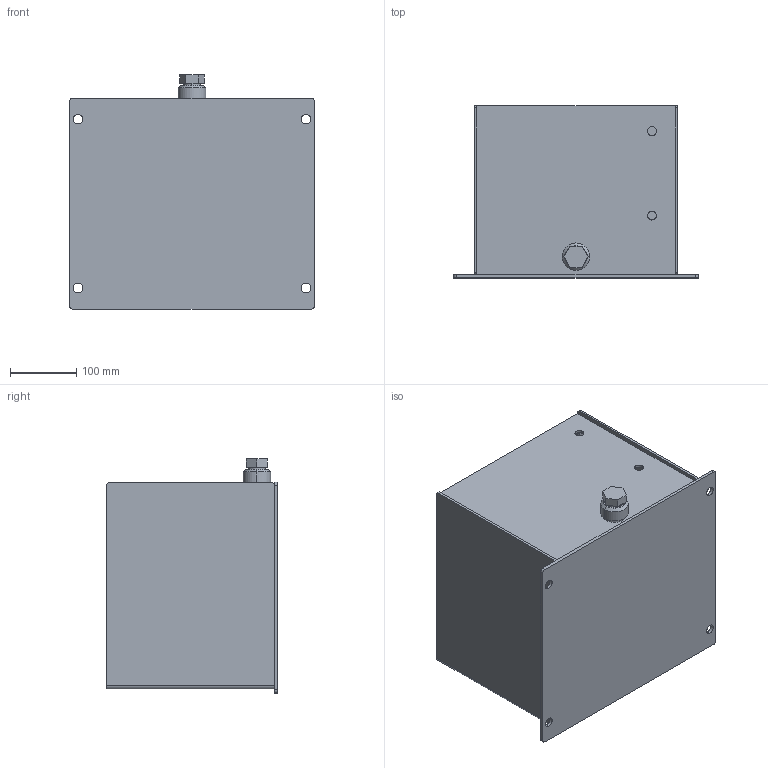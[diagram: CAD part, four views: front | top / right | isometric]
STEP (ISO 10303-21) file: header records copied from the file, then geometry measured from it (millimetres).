
FILE_DESCRIPTION (( 'STEP AP214' ), '1' );
FILE_NAME ('TV-145.STEP', '2020-02-04T12:33:37', ( '' ), ( '' ), 'SwSTEP 2.0', 'SolidWorks 2013', '' );
FILE_SCHEMA (( 'AUTOMOTIVE_DESIGN' ));
Length unit declared in the file: inch
Products named in the file (7): TV-145BTM; TV-145FR; #12 SAE PLUG; TV-145; TV-145BDY; TV-GST; #12 SAE DRAIN
Assembly tree (9 placements, depth 2):
  TV-145
    TV-145BTM
    TV-145FR
    TV-145BDY
    TV-GST  x4
    #12 SAE DRAIN
    #12 SAE PLUG
Bounding box: 368.3 x 258.76 x 352.43 mm (x, y, z)
Volume: 1674055.6 mm3; surface area: 893381.4 mm2
Topology: 9 solids, 9 shells, 115 faces, 262 edges, 168 vertices
Faces by surface type: plane 71, cylinder 38, cone 6
Entity records: 2990 total; most frequent: DIRECTION 486, CARTESIAN_POINT 443, ORIENTED_EDGE 416, EDGE_CURVE 208, AXIS2_PLACEMENT_3D 175, VECTOR 136, LINE 136, VERTEX_POINT 132
